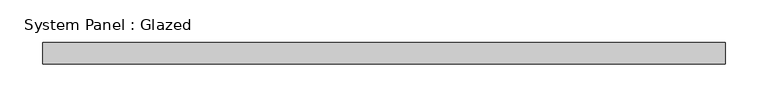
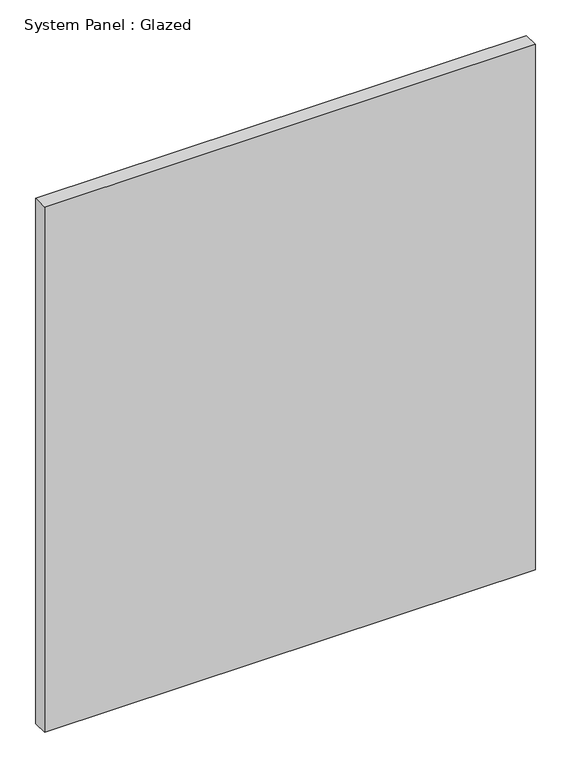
"""IFC4 building model written with IfcOpenShell, lengths in millimetres: plate geometry, System Panel : Glazed."""

from ifc_helpers import new_model, si_unit, origin, origin_with_axes, place, context, project, spatial, polyline, outline, extrude, source, transform, mapped, element, save


def system_panel_glazed_4c1991e1(model_context):
    return source(origin(), model_context, "Body", "SweptSolid", [
        extrude(outline(polyline([(398.1853989, 24.5), (-398.1853989, 24.5), (-398.1853989, 49.5), (398.1853989, 49.5), (398.1853989, 24.5)])), origin_with_axes(), (0.0, 0.0, 1.0), 900.0),
    ])


if __name__ == "__main__":
    model = new_model("IFC4")
    model_context = context("Model", 3, world=origin())
    ifc_project = project(units=[si_unit("LENGTHUNIT", "METRE", prefix="MILLI")], contexts=[model_context])
    site = spatial("IfcSite", under=ifc_project)
    building = spatial("IfcBuilding", under=site)
    placement = place(None, origin())
    system_panel_glazed_shape = system_panel_glazed_4c1991e1(model_context)
    element("IfcPlate", 1, ObjectType="System Panel : Glazed", at=placement, inside=building, context=model_context, shape_type="MappedRepresentation", body=[
        mapped(system_panel_glazed_shape, transform((0.0, 0.0, 0.0), x_axis=(1.0, 0.0, 0.0), y_axis=(0.0, 1.0, 0.0), z_axis=(0.0, 0.0, 1.0))),
    ])
    save(model, "model.ifc")
